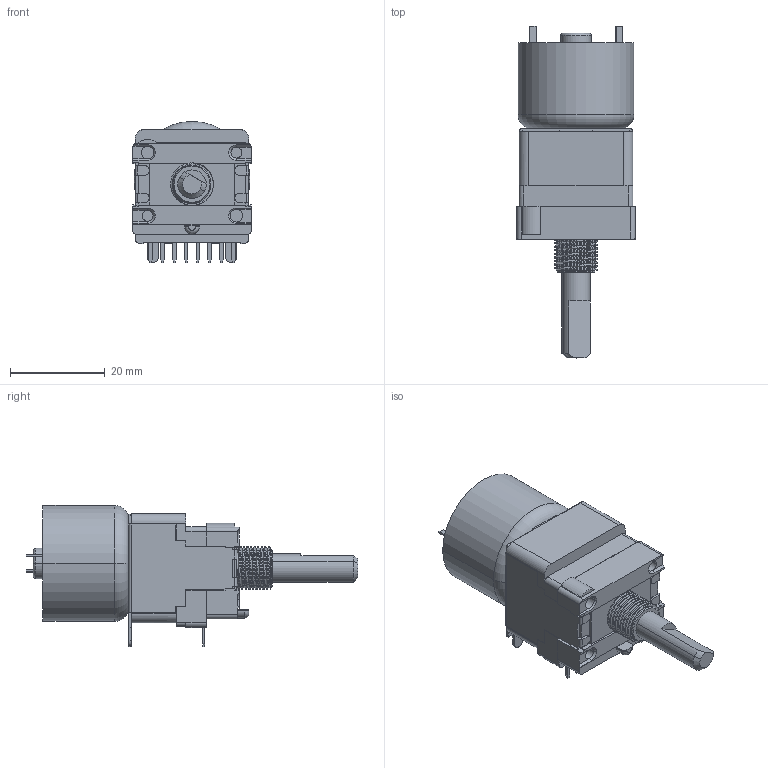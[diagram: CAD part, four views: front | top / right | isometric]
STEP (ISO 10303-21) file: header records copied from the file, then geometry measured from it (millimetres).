
FILE_DESCRIPTION (( 'STEP AP214' ), '1' );
FILE_NAME ('RK16812MG09T.STEP', '2017-04-04T08:45:01', ( 'user' ), ( 'Hewlett-Packard Company' ), 'SwSTEP 2.0', 'SolidWorks 2014', '' );
FILE_SCHEMA (( 'AUTOMOTIVE_DESIGN' ));
Length unit declared in the file: millimetre
Products named in the file (1): RK16812MG09T
Bounding box: 25 x 69.9 x 29.7 mm (x, y, z)
Volume: 21009.9 mm3; surface area: 6302.5 mm2
Topology: 1 solids, 2 shells, 371 faces, 1027 edges, 673 vertices
Faces by surface type: plane 272, cylinder 79, cone 11, torus 5, bspline 4
Entity records: 17656 total; most frequent: CARTESIAN_POINT 4215, ORIENTED_EDGE 2054, DIRECTION 1870, EDGE_CURVE 1027, LINE 802, VECTOR 802, VERTEX_POINT 673, AXIS2_PLACEMENT_3D 534
